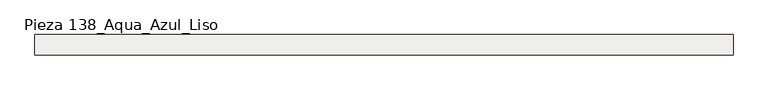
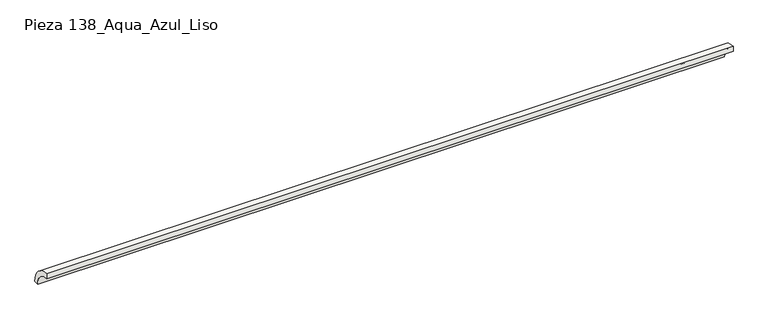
"""IFC4 building model written with IfcOpenShell, lengths in millimetres: slab geometry, ROSA GRES_138 : Pieza 138_Aqua_Azul_Liso."""

from ifc_helpers import new_model, si_unit, point, frame, frame_2d, origin, origin_2d, place, context, project, spatial, polyline, circle_curve, trimmed, segment, composite_curve, outline, extrude, source, transform, mapped, element, save


def pieza_138_aqua_azul_liso_266cedea(model_context):
    return source(origin(), model_context, "Body", "SweptSolid", [
        extrude(outline(composite_curve([segment(trimmed(circle_curve(origin_2d(), 40.0), [point((0.0, 40.0))], [point((40.0, 0.0))], False, "CARTESIAN"), True, "CONTINUOUS"), segment(polyline([(40.0, 0.0), (30.0265886, 0.0)]), True, "CONTINUOUS"), segment(trimmed(circle_curve(frame_2d((0.0044453, 0.0044453)), 30.0221435), [point((30.0265886, 0.0))], [point((0.0, 30.0265886))], True, "CARTESIAN"), True, "CONTINUOUS"), segment(polyline([(0.0, 30.0265886), (0.0, 40.0)]), True, "CONTINUOUS")], self_intersect=False)), frame((0.0, 0.0, 0.0), z_axis=(1.0, 0.0, 0.0), x_axis=(0.0, 1.0, 0.0)), (0.0, 0.0, 1.0), 1365.0),
    ])


if __name__ == "__main__":
    model = new_model("IFC4")
    model_context = context("Model", 3, world=origin())
    ifc_project = project(units=[si_unit("LENGTHUNIT", "METRE", prefix="MILLI")], contexts=[model_context])
    site = spatial("IfcSite", under=ifc_project)
    building = spatial("IfcBuilding", under=site)
    placement = place(None, origin())
    pieza_138_aqua_azul_liso_shape = pieza_138_aqua_azul_liso_266cedea(model_context)
    element("IfcSlab", 1, ObjectType="ROSA GRES_138 : Pieza 138_Aqua_Azul_Liso", at=placement, inside=building, context=model_context, shape_type="MappedRepresentation", body=[
        mapped(pieza_138_aqua_azul_liso_shape, transform((0.0, 0.0, 0.0), x_axis=(1.0, 0.0, 0.0), y_axis=(0.0, 1.0, 0.0), z_axis=(0.0, 0.0, 1.0))),
    ])
    save(model, "model.ifc")
